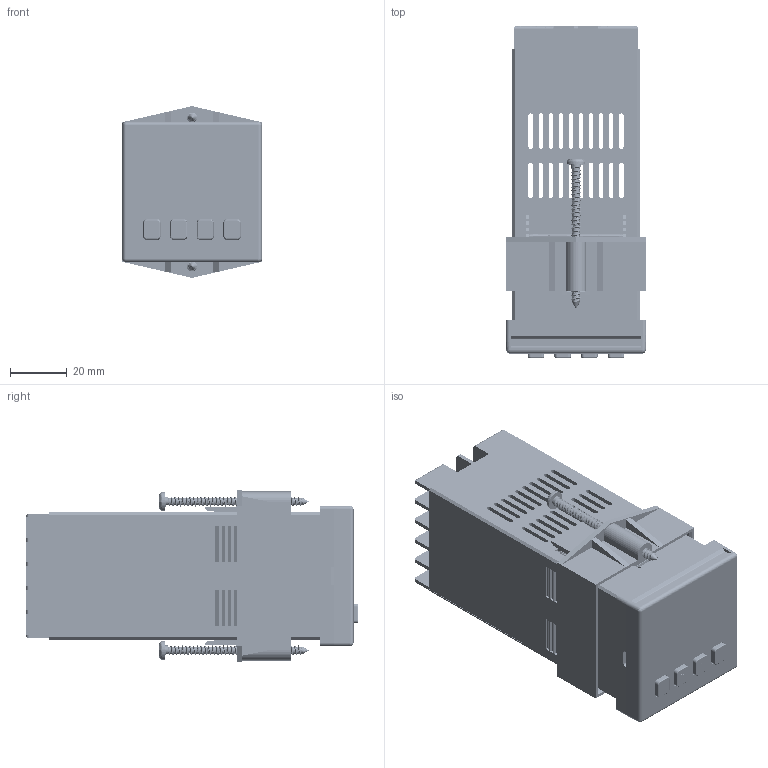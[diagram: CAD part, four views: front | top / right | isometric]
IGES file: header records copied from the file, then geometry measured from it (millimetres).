
Start section: SolidWorks IGES file using analytic representation for surfaces
Global section: file name: W:\Teams\Mech\SE data\Product_Lines\Customer 3D Models (STEP-IGES-Parasolid files)\T48\IGES\T48 ASSY.IGS; native system: SolidWorks 2022; preprocessor: SolidWorks 2022; author: joseph.cirabisi; date: 240731.111841; units: millimetre
Bounding box: 49.53 x 116.97 x 60.55 mm (x, y, z)
Surface area: 80943.3 mm2 (no closed solid volume)
Topology: 0 solids, 0 shells, 2066 faces, 19554 edges, 19515 vertices
Faces by surface type: bspline 1343, revolution 723
